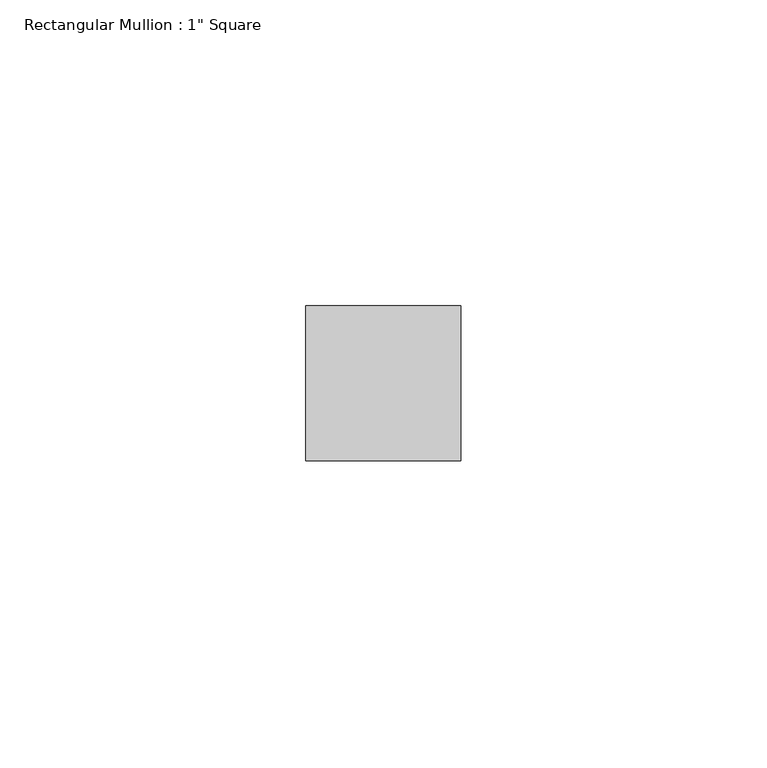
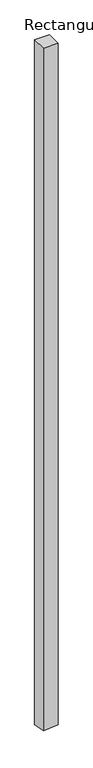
"""IFC4 building model written with IfcOpenShell, lengths in millimetres: member geometry."""

from ifc_helpers import new_model, si_unit, origin, place, context, project, spatial, faceted_brep, source, transform, mapped, element, save


def member_39e566c8(model_context):
    return source(origin(), model_context, "Body", "Brep", [
        faceted_brep([(12.7, 12.7, 0.0), (-12.7, 12.7, 0.0), (-12.7, -12.7, 0.0), (12.7, -12.7, 0.0), (12.7, 12.7, -1233.5203731), (-12.7, 12.7, -1235.1454461), (-12.7, -12.7, -1230.5235226), (12.7, -12.7, -1228.8984496)], [[[0, 1, 2, 3]], [[1, 0, 4, 5]], [[2, 1, 5, 6]], [[3, 2, 6, 7]], [[0, 3, 7, 4]], [[4, 7, 6, 5]]]),
    ])


if __name__ == "__main__":
    model = new_model("IFC4")
    model_context = context("Model", 3, world=origin())
    ifc_project = project(units=[si_unit("LENGTHUNIT", "METRE", prefix="MILLI")], contexts=[model_context])
    site = spatial("IfcSite", under=ifc_project)
    building = spatial("IfcBuilding", under=site)
    placement = place(None, origin())
    member_shape = member_39e566c8(model_context)
    element("IfcMember", 1, ObjectType="Rectangular Mullion : 1\" Square", at=placement, inside=building, context=model_context, shape_type="MappedRepresentation", body=[
        mapped(member_shape, transform((0.0, 0.0, 0.0), x_axis=(1.0, 0.0, 0.0), y_axis=(0.0, 1.0, 0.0), z_axis=(0.0, 0.0, 1.0))),
    ])
    save(model, "model.ifc")
